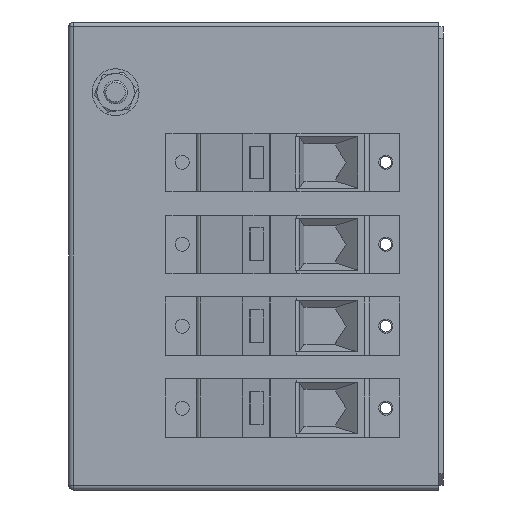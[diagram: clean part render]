
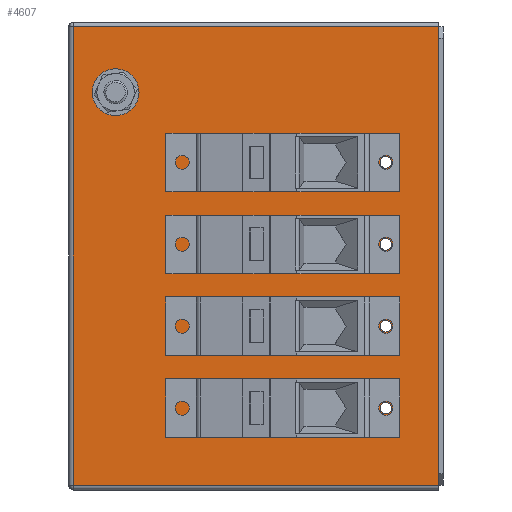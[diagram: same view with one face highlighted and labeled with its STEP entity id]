
A CAD part, left-side view. The second image highlights one B-rep face of the part: STEP entity #4607.
In plain terms, the highlighted planar face has unit normal (-1, 0, 0).
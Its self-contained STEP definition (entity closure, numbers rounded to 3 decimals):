
#164 = CARTESIAN_POINT ( 'NONE',  ( 27., 24.5, 135.5 ) ) ;
#371 = CARTESIAN_POINT ( 'NONE',  ( 27., 24.5, 68. ) ) ;
#497 = VERTEX_POINT ( 'NONE', #1781 ) ;
#526 = AXIS2_PLACEMENT_3D ( 'NONE', #7035, #1286, #1321 ) ;
#597 = DIRECTION ( 'NONE',  ( 0., 0., -1. ) ) ;
#736 = EDGE_CURVE ( 'NONE', #4064, #7198, #4262, .T. ) ;
#773 = CIRCLE ( 'NONE', #2342, 2.5 ) ;
#799 = VERTEX_POINT ( 'NONE', #3619 ) ;
#993 = ORIENTED_EDGE ( 'NONE', *, *, #7933, .T. ) ;
#996 = DIRECTION ( 'NONE',  ( 0., 0., -1. ) ) ;
#1100 = DIRECTION ( 'NONE',  ( 0., 0., -1. ) ) ;
#1147 = EDGE_LOOP ( 'NONE', ( #993, #6687, #10027, #6721 ) ) ;
#1278 = CIRCLE ( 'NONE', #6082, 2.5 ) ;
#1286 = DIRECTION ( 'NONE',  ( 1., 0., 0. ) ) ;
#1299 = CARTESIAN_POINT ( 'NONE',  ( 27., 24.5, 30.5 ) ) ;
#1321 = DIRECTION ( 'NONE',  ( 0., 0., -1. ) ) ;
#1531 = LINE ( 'NONE', #3865, #3936 ) ;
#1555 = LINE ( 'NONE', #1737, #2822 ) ;
#1620 = CIRCLE ( 'NONE', #4618, 2.5 ) ;
#1716 = DIRECTION ( 'NONE',  ( 0., 0., 1. ) ) ;
#1737 = CARTESIAN_POINT ( 'NONE',  ( 27., 158., -2. ) ) ;
#1781 = CARTESIAN_POINT ( 'NONE',  ( 27., 24.5, 105.5 ) ) ;
#1903 = DIRECTION ( 'NONE',  ( 1., 0., 0. ) ) ;
#1939 = CIRCLE ( 'NONE', #3011, 2.5 ) ;
#2002 = EDGE_CURVE ( 'NONE', #6958, #9120, #1620, .T. ) ;
#2093 = AXIS2_PLACEMENT_3D ( 'NONE', #10285, #8716, #597 ) ;
#2099 = AXIS2_PLACEMENT_3D ( 'NONE', #5032, #5848, #996 ) ;
#2122 = LINE ( 'NONE', #2713, #4894 ) ;
#2149 = DIRECTION ( 'NONE',  ( 0., 0., -1. ) ) ;
#2325 = FACE_BOUND ( 'NONE', #6431, .T. ) ;
#2327 = ORIENTED_EDGE ( 'NONE', *, *, #6383, .T. ) ;
#2329 = DIRECTION ( 'NONE',  ( 0., 1., 0. ) ) ;
#2342 = AXIS2_PLACEMENT_3D ( 'NONE', #371, #10084, #10049 ) ;
#2433 = VERTEX_POINT ( 'NONE', #3834 ) ;
#2470 = ORIENTED_EDGE ( 'NONE', *, *, #4277, .T. ) ;
#2680 = CIRCLE ( 'NONE', #3580, 2.5 ) ;
#2713 = CARTESIAN_POINT ( 'NONE',  ( 27., 160., 0. ) ) ;
#2785 = EDGE_CURVE ( 'NONE', #5020, #8596, #2122, .T. ) ;
#2822 = VECTOR ( 'NONE', #1100, 1000. ) ;
#2881 = CARTESIAN_POINT ( 'NONE',  ( 27., 2., 0. ) ) ;
#3011 = AXIS2_PLACEMENT_3D ( 'NONE', #7223, #6513, #3979 ) ;
#3090 = FACE_BOUND ( 'NONE', #6968, .T. ) ;
#3102 = CARTESIAN_POINT ( 'NONE',  ( 27., 24.5, 103. ) ) ;
#3134 = DIRECTION ( 'NONE',  ( 1., 0., 0. ) ) ;
#3343 = CIRCLE ( 'NONE', #7670, 2.5 ) ;
#3361 = CARTESIAN_POINT ( 'NONE',  ( 27., 158., 0. ) ) ;
#3567 = CIRCLE ( 'NONE', #526, 5.25 ) ;
#3580 = AXIS2_PLACEMENT_3D ( 'NONE', #3102, #3134, #7998 ) ;
#3619 = CARTESIAN_POINT ( 'NONE',  ( 27., 158., 196. ) ) ;
#3726 = DIRECTION ( 'NONE',  ( 0., 0., -1. ) ) ;
#3805 = ORIENTED_EDGE ( 'NONE', *, *, #2002, .T. ) ;
#3834 = CARTESIAN_POINT ( 'NONE',  ( 27., 24.5, 65.5 ) ) ;
#3865 = CARTESIAN_POINT ( 'NONE',  ( 27., 2., -2. ) ) ;
#3886 = CARTESIAN_POINT ( 'NONE',  ( 27., 2., 196. ) ) ;
#3936 = VECTOR ( 'NONE', #1716, 1000. ) ;
#3979 = DIRECTION ( 'NONE',  ( 0., 0., -1. ) ) ;
#4036 = LINE ( 'NONE', #9520, #5931 ) ;
#4064 = VERTEX_POINT ( 'NONE', #5379 ) ;
#4124 = EDGE_CURVE ( 'NONE', #497, #5975, #3343, .T. ) ;
#4262 = CIRCLE ( 'NONE', #2099, 2.5 ) ;
#4277 = EDGE_CURVE ( 'NONE', #2433, #7944, #1939, .T. ) ;
#4409 = DIRECTION ( 'NONE',  ( 0., -1., 0. ) ) ;
#4607 = ADVANCED_FACE ( 'NONE', ( #6878, #7245, #5992, #3090, #2325, #6989 ), #6099, .F. ) ;
#4618 = AXIS2_PLACEMENT_3D ( 'NONE', #6225, #5383, #2149 ) ;
#4894 = VECTOR ( 'NONE', #4409, 1000. ) ;
#4967 = CIRCLE ( 'NONE', #2093, 2.5 ) ;
#5020 = VERTEX_POINT ( 'NONE', #3361 ) ;
#5032 = CARTESIAN_POINT ( 'NONE',  ( 27., 24.5, 33. ) ) ;
#5164 = ORIENTED_EDGE ( 'NONE', *, *, #5959, .T. ) ;
#5352 = ORIENTED_EDGE ( 'NONE', *, *, #9261, .T. ) ;
#5379 = CARTESIAN_POINT ( 'NONE',  ( 27., 24.5, 35.5 ) ) ;
#5383 = DIRECTION ( 'NONE',  ( 1., 0., 0. ) ) ;
#5394 = DIRECTION ( 'NONE',  ( 0., 0., -1. ) ) ;
#5456 = CARTESIAN_POINT ( 'NONE',  ( 27., 24.5, 103. ) ) ;
#5475 = EDGE_CURVE ( 'NONE', #5975, #497, #2680, .T. ) ;
#5484 = AXIS2_PLACEMENT_3D ( 'NONE', #9135, #8667, #3726 ) ;
#5848 = DIRECTION ( 'NONE',  ( 1., 0., 0. ) ) ;
#5875 = EDGE_CURVE ( 'NONE', #7944, #2433, #773, .T. ) ;
#5931 = VECTOR ( 'NONE', #2329, 1000. ) ;
#5959 = EDGE_CURVE ( 'NONE', #10331, #6012, #3567, .T. ) ;
#5975 = VERTEX_POINT ( 'NONE', #6270 ) ;
#5992 = FACE_BOUND ( 'NONE', #7957, .T. ) ;
#6012 = VERTEX_POINT ( 'NONE', #6927 ) ;
#6082 = AXIS2_PLACEMENT_3D ( 'NONE', #9898, #1903, #7543 ) ;
#6099 = PLANE ( 'NONE',  #5484 ) ;
#6178 = EDGE_CURVE ( 'NONE', #8596, #10155, #1531, .T. ) ;
#6225 = CARTESIAN_POINT ( 'NONE',  ( 27., 24.5, 138. ) ) ;
#6270 = CARTESIAN_POINT ( 'NONE',  ( 27., 24.5, 100.5 ) ) ;
#6383 = EDGE_CURVE ( 'NONE', #9120, #6958, #1278, .T. ) ;
#6431 = EDGE_LOOP ( 'NONE', ( #3805, #2327 ) ) ;
#6513 = DIRECTION ( 'NONE',  ( 1., 0., 0. ) ) ;
#6575 = ORIENTED_EDGE ( 'NONE', *, *, #736, .T. ) ;
#6687 = ORIENTED_EDGE ( 'NONE', *, *, #2785, .T. ) ;
#6721 = ORIENTED_EDGE ( 'NONE', *, *, #10207, .T. ) ;
#6875 = CARTESIAN_POINT ( 'NONE',  ( 27., 24.5, 70.5 ) ) ;
#6878 = FACE_BOUND ( 'NONE', #8492, .T. ) ;
#6927 = CARTESIAN_POINT ( 'NONE',  ( 27., 140., 162.75 ) ) ;
#6958 = VERTEX_POINT ( 'NONE', #164 ) ;
#6968 = EDGE_LOOP ( 'NONE', ( #5352, #5164 ) ) ;
#6989 = FACE_OUTER_BOUND ( 'NONE', #1147, .T. ) ;
#7035 = CARTESIAN_POINT ( 'NONE',  ( 27., 140., 168. ) ) ;
#7149 = DIRECTION ( 'NONE',  ( 0., 0., -1. ) ) ;
#7198 = VERTEX_POINT ( 'NONE', #1299 ) ;
#7223 = CARTESIAN_POINT ( 'NONE',  ( 27., 24.5, 68. ) ) ;
#7245 = FACE_BOUND ( 'NONE', #7446, .T. ) ;
#7446 = EDGE_LOOP ( 'NONE', ( #2470, #7597 ) ) ;
#7543 = DIRECTION ( 'NONE',  ( 0., 0., -1. ) ) ;
#7597 = ORIENTED_EDGE ( 'NONE', *, *, #5875, .T. ) ;
#7670 = AXIS2_PLACEMENT_3D ( 'NONE', #5456, #8001, #7149 ) ;
#7814 = ORIENTED_EDGE ( 'NONE', *, *, #4124, .T. ) ;
#7933 = EDGE_CURVE ( 'NONE', #799, #5020, #1555, .T. ) ;
#7944 = VERTEX_POINT ( 'NONE', #6875 ) ;
#7957 = EDGE_LOOP ( 'NONE', ( #7966, #7814 ) ) ;
#7966 = ORIENTED_EDGE ( 'NONE', *, *, #5475, .T. ) ;
#7998 = DIRECTION ( 'NONE',  ( 0., 0., -1. ) ) ;
#8001 = DIRECTION ( 'NONE',  ( 1., 0., 0. ) ) ;
#8297 = EDGE_CURVE ( 'NONE', #7198, #4064, #4967, .T. ) ;
#8492 = EDGE_LOOP ( 'NONE', ( #9490, #6575 ) ) ;
#8596 = VERTEX_POINT ( 'NONE', #2881 ) ;
#8667 = DIRECTION ( 'NONE',  ( 1., 0., 0. ) ) ;
#8716 = DIRECTION ( 'NONE',  ( 1., 0., 0. ) ) ;
#9048 = AXIS2_PLACEMENT_3D ( 'NONE', #9244, #10193, #5394 ) ;
#9067 = CARTESIAN_POINT ( 'NONE',  ( 27., 24.5, 140.5 ) ) ;
#9120 = VERTEX_POINT ( 'NONE', #9067 ) ;
#9135 = CARTESIAN_POINT ( 'NONE',  ( 27., 160., -2. ) ) ;
#9244 = CARTESIAN_POINT ( 'NONE',  ( 27., 140., 168. ) ) ;
#9261 = EDGE_CURVE ( 'NONE', #6012, #10331, #9608, .T. ) ;
#9490 = ORIENTED_EDGE ( 'NONE', *, *, #8297, .T. ) ;
#9520 = CARTESIAN_POINT ( 'NONE',  ( 27., 160., 196. ) ) ;
#9608 = CIRCLE ( 'NONE', #9048, 5.25 ) ;
#9650 = CARTESIAN_POINT ( 'NONE',  ( 27., 140., 173.25 ) ) ;
#9898 = CARTESIAN_POINT ( 'NONE',  ( 27., 24.5, 138. ) ) ;
#10027 = ORIENTED_EDGE ( 'NONE', *, *, #6178, .T. ) ;
#10049 = DIRECTION ( 'NONE',  ( 0., 0., -1. ) ) ;
#10084 = DIRECTION ( 'NONE',  ( 1., 0., 0. ) ) ;
#10155 = VERTEX_POINT ( 'NONE', #3886 ) ;
#10193 = DIRECTION ( 'NONE',  ( 1., 0., 0. ) ) ;
#10207 = EDGE_CURVE ( 'NONE', #10155, #799, #4036, .T. ) ;
#10285 = CARTESIAN_POINT ( 'NONE',  ( 27., 24.5, 33. ) ) ;
#10331 = VERTEX_POINT ( 'NONE', #9650 ) ;
